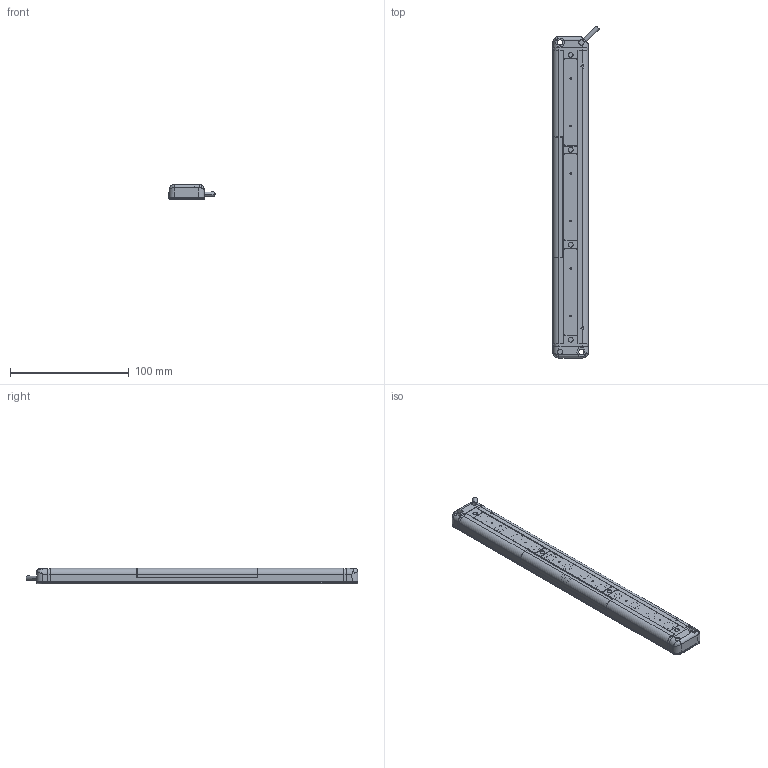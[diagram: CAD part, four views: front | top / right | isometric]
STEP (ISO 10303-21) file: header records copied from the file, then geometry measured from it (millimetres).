
FILE_DESCRIPTION((''),'2;1');
FILE_NAME('SA2_12_JIESHOU_ASM','2018-10-19T15:47:35',('Administrator'),(''),'CREO PARAMETRIC BY PTC INC, 2016390','CREO PARAMETRIC BY PTC INC, 2016390','');
FILE_SCHEMA(('AUTOMOTIVE_DESIGN { 1 0 10303 214 1 1 1 1 }'));
Length unit declared in the file: millimetre
Products named in the file (6): 074-_12188_1; ADMID3172S3O_4; 072-1_6974_1; 074-_11093_1; G12PCB_JIESHOU; SA2_12_JIESHOU_ASM
Assembly tree (7 placements, depth 2):
  SA2_12_JIESHOU_ASM
    074-_12188_1
    ADMID3172S3O_4  x3
    072-1_6974_1
    074-_11093_1
    G12PCB_JIESHOU
Bounding box: 38.88 x 279.38 x 13.05 mm (x, y, z)
Volume: 54555.4 mm3; surface area: 71822.1 mm2
Topology: 7 solids, 7 shells, 1788 faces, 5268 edges, 3596 vertices
Faces by surface type: plane 908, cylinder 500, cone 254, torus 91, sphere 26, bspline 9
Entity records: 55625 total; most frequent: CARTESIAN_POINT 13293, ORIENTED_EDGE 9188, DIRECTION 7669, EDGE_CURVE 4594, VERTEX_POINT 3148, AXIS2_PLACEMENT_3D 2557, VECTOR 2555, LINE 2555
